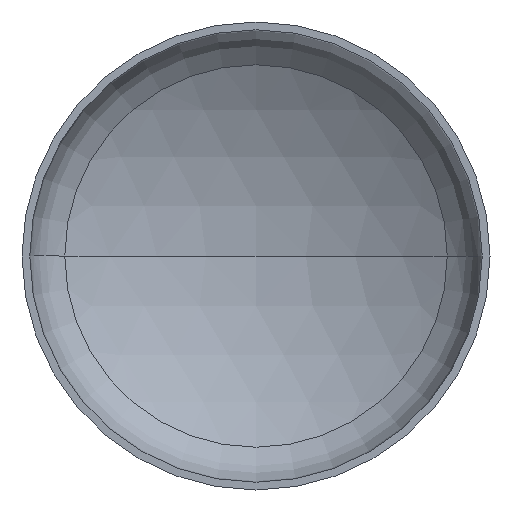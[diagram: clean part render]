
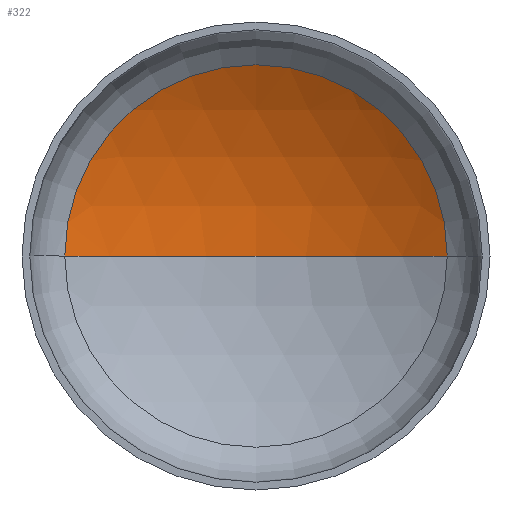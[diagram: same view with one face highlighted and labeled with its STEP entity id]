
A CAD part, front view. The second image highlights one B-rep face of the part: STEP entity #322.
In plain terms, the highlighted spherical face has radius 1440 mm.
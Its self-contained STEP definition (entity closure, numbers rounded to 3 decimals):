
#19 = EDGE_LOOP ( 'NONE', ( #77, #69, #31 ) ) ;
#31 = ORIENTED_EDGE ( 'NONE', *, *, #183, .T. ) ;
#36 = CARTESIAN_POINT ( 'NONE',  ( 0., -911.599, 0. ) ) ;
#53 = VERTEX_POINT ( 'NONE', #236 ) ;
#54 = AXIS2_PLACEMENT_3D ( 'NONE', #36, #174, #154 ) ;
#69 = ORIENTED_EDGE ( 'NONE', *, *, #187, .T. ) ;
#73 = VERTEX_POINT ( 'NONE', #237 ) ;
#77 = ORIENTED_EDGE ( 'NONE', *, *, #188, .F. ) ;
#83 = VERTEX_POINT ( 'NONE', #230 ) ;
#93 = CIRCLE ( 'NONE', #125, 1440. ) ;
#108 = CIRCLE ( 'NONE', #119, 1440. ) ;
#118 = DIRECTION ( 'NONE',  ( 0., 0., 1. ) ) ;
#119 = AXIS2_PLACEMENT_3D ( 'NONE', #287, #118, #312 ) ;
#125 = AXIS2_PLACEMENT_3D ( 'NONE', #329, #304, #235 ) ;
#129 = AXIS2_PLACEMENT_3D ( 'NONE', #394, #262, #372 ) ;
#154 = DIRECTION ( 'NONE',  ( -1., 0., 0. ) ) ;
#174 = DIRECTION ( 'NONE',  ( 0., 0., -1. ) ) ;
#183 = EDGE_CURVE ( 'NONE', #53, #83, #409, .T. ) ;
#187 = EDGE_CURVE ( 'NONE', #73, #53, #93, .T. ) ;
#188 = EDGE_CURVE ( 'NONE', #73, #83, #108, .T. ) ;
#230 = CARTESIAN_POINT ( 'NONE',  ( -735.451, 326.429, 0. ) ) ;
#235 = DIRECTION ( 'NONE',  ( -1., 0., 0. ) ) ;
#236 = CARTESIAN_POINT ( 'NONE',  ( 735.451, 326.429, 0. ) ) ;
#237 = CARTESIAN_POINT ( 'NONE',  ( 0., 528.401, 0. ) ) ;
#256 = FACE_OUTER_BOUND ( 'NONE', #19, .T. ) ;
#262 = DIRECTION ( 'NONE',  ( 0., -1., 0. ) ) ;
#287 = CARTESIAN_POINT ( 'NONE',  ( 0., -911.599, 0. ) ) ;
#304 = DIRECTION ( 'NONE',  ( 0., 0., -1. ) ) ;
#312 = DIRECTION ( 'NONE',  ( 1., 0., 0. ) ) ;
#322 = ADVANCED_FACE ( 'NONE', ( #256 ), #385, .F. ) ;
#329 = CARTESIAN_POINT ( 'NONE',  ( 0., -911.599, 0. ) ) ;
#372 = DIRECTION ( 'NONE',  ( 1., 0., 0. ) ) ;
#385 = SPHERICAL_SURFACE ( 'NONE', #54, 1440. ) ;
#394 = CARTESIAN_POINT ( 'NONE',  ( 0., 326.429, 0. ) ) ;
#409 = CIRCLE ( 'NONE', #129, 735.451 ) ;
